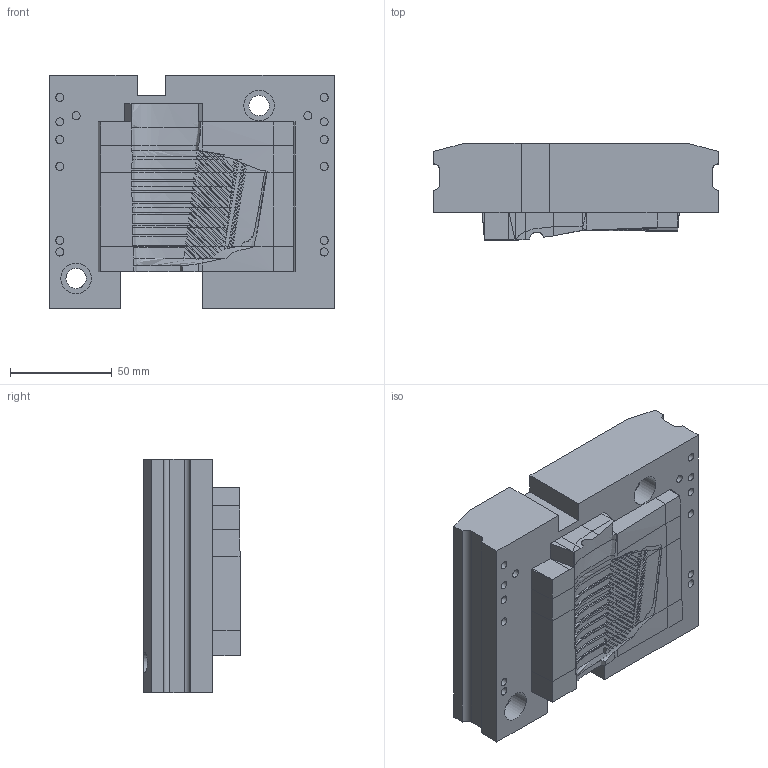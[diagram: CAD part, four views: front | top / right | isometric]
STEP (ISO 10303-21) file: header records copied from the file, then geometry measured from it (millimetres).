
FILE_DESCRIPTION(('Open CASCADE Model'),'2;1');
FILE_NAME('Open CASCADE Shape Model','2026-09-27T02:18:01',('Author'),( 'Open CASCADE'),'Open CASCADE STEP processor 7.9','Open CASCADE 7.9' ,'Unknown');
FILE_SCHEMA(('AUTOMOTIVE_DESIGN { 1 0 10303 214 1 1 1 1 }'));
Products named in the file (1): Open CASCADE STEP translator 7.9 1
Bounding box: 140 x 47.7 x 115 mm (x, y, z)
Volume: 517967 mm3; surface area: 63266 mm2
Topology: 1 solids, 1 shells, 711 faces, 1946 edges, 1286 vertices
Faces by surface type: plane 502, bspline 174, cylinder 35
Full cylindrical faces by diameter (mm): 4 x14, 8 x4, 10 x2, 15 x2
Entity records: 218137 total; most frequent: CARTESIAN_POINT 187117, B_SPLINE_CURVE_WITH_KNOTS 3964, ORIENTED_EDGE 3892, PCURVE 3892, DEFINITIONAL_REPRESENTATION 3892, DIRECTION 2998, EDGE_CURVE 1946, SURFACE_CURVE 1924
